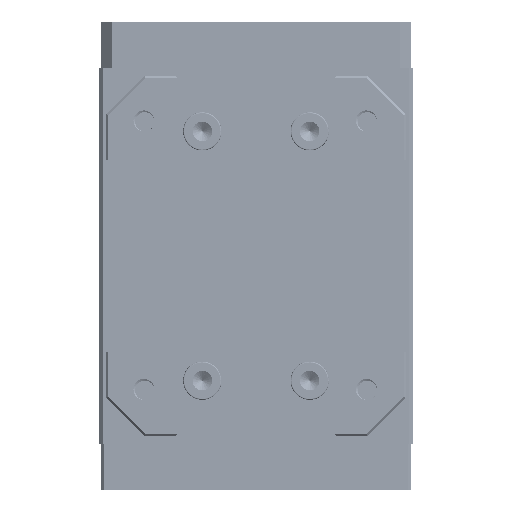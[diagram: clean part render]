
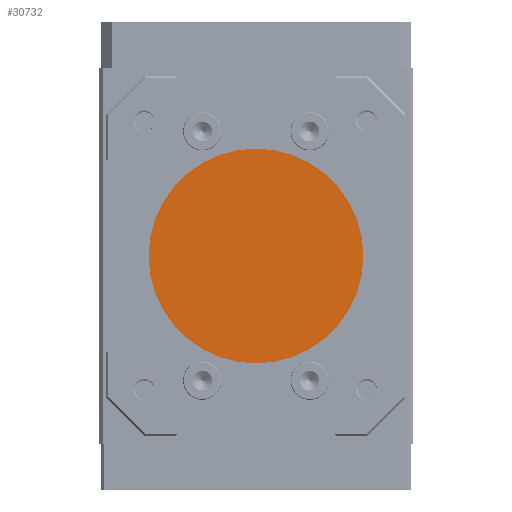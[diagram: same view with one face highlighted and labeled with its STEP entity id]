
A CAD part, front view. The second image highlights one B-rep face of the part: STEP entity #30732.
In plain terms, the highlighted planar face has unit normal (0, -1, 0).
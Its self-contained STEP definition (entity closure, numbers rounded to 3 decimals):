
#655 = DIRECTION ( 'NONE',  ( 0., -1., 0. ) ) ;
#3237 = PLANE ( 'NONE',  #4943 ) ;
#4943 = AXIS2_PLACEMENT_3D ( 'NONE', #7058, #21627, #20129 ) ;
#5057 = EDGE_CURVE ( 'NONE', #23705, #36976, #38151, .T. ) ;
#6103 = AXIS2_PLACEMENT_3D ( 'NONE', #20703, #655, #6752 ) ;
#6752 = DIRECTION ( 'NONE',  ( 0., 0., -1. ) ) ;
#7058 = CARTESIAN_POINT ( 'NONE',  ( 0., 0.5, 0. ) ) ;
#15017 = CARTESIAN_POINT ( 'NONE',  ( 0., 0.5, 28. ) ) ;
#17625 = EDGE_LOOP ( 'NONE', ( #24426, #26308 ) ) ;
#19411 = CARTESIAN_POINT ( 'NONE',  ( 0., 0.5, 0. ) ) ;
#20129 = DIRECTION ( 'NONE',  ( 0., 0., -1. ) ) ;
#20354 = FACE_OUTER_BOUND ( 'NONE', #17625, .T. ) ;
#20703 = CARTESIAN_POINT ( 'NONE',  ( 0., 0.5, 0. ) ) ;
#21627 = DIRECTION ( 'NONE',  ( 0., -1., 0. ) ) ;
#23459 = DIRECTION ( 'NONE',  ( 0., -1., 0. ) ) ;
#23705 = VERTEX_POINT ( 'NONE', #25817 ) ;
#24426 = ORIENTED_EDGE ( 'NONE', *, *, #5057, .T. ) ;
#25817 = CARTESIAN_POINT ( 'NONE',  ( 0., 0.5, -28. ) ) ;
#26308 = ORIENTED_EDGE ( 'NONE', *, *, #38895, .T. ) ;
#26656 = AXIS2_PLACEMENT_3D ( 'NONE', #19411, #23459, #43717 ) ;
#30732 = ADVANCED_FACE ( 'NONE', ( #20354 ), #3237, .T. ) ;
#36976 = VERTEX_POINT ( 'NONE', #15017 ) ;
#38151 = CIRCLE ( 'NONE', #26656, 28. ) ;
#38895 = EDGE_CURVE ( 'NONE', #36976, #23705, #41998, .T. ) ;
#41998 = CIRCLE ( 'NONE', #6103, 28. ) ;
#43717 = DIRECTION ( 'NONE',  ( 0., 0., -1. ) ) ;
